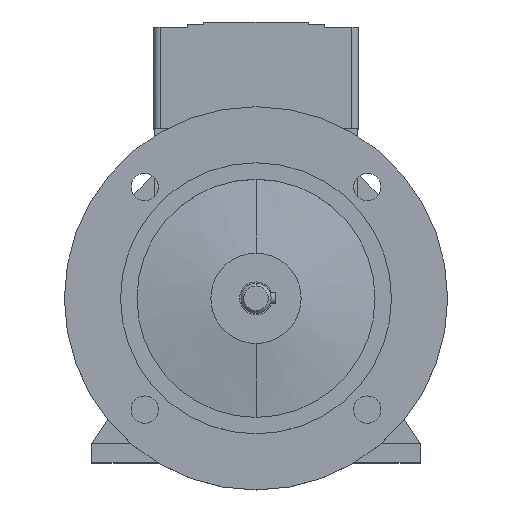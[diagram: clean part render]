
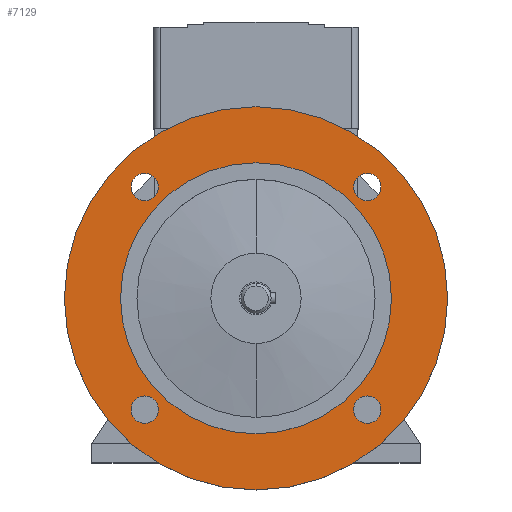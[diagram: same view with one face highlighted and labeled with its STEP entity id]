
A CAD part, top view. The second image highlights one B-rep face of the part: STEP entity #7129.
In plain terms, the highlighted planar face has unit normal (0, 0, 1).
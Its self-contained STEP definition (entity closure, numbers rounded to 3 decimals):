
#1663=CARTESIAN_POINT('',(-40.659,40.659,29.));
#1664=DIRECTION('',(0.,0.,-1.));
#1665=DIRECTION('',(-1.,0.,0.));
#1666=AXIS2_PLACEMENT_3D('',#1663,#1664,#1665);
#1668=CARTESIAN_POINT('',(-40.659,40.659,29.));
#1669=DIRECTION('',(0.,0.,-1.));
#1670=DIRECTION('',(1.,0.,0.));
#1671=AXIS2_PLACEMENT_3D('',#1668,#1669,#1670);
#1673=CARTESIAN_POINT('',(-40.659,-40.659,29.));
#1674=DIRECTION('',(0.,0.,-1.));
#1675=DIRECTION('',(-1.,0.,0.));
#1676=AXIS2_PLACEMENT_3D('',#1673,#1674,#1675);
#1678=CARTESIAN_POINT('',(-40.659,-40.659,29.));
#1679=DIRECTION('',(0.,0.,-1.));
#1680=DIRECTION('',(1.,0.,0.));
#1681=AXIS2_PLACEMENT_3D('',#1678,#1679,#1680);
#1683=CARTESIAN_POINT('',(40.659,-40.659,29.));
#1684=DIRECTION('',(0.,0.,-1.));
#1685=DIRECTION('',(-1.,0.,0.));
#1686=AXIS2_PLACEMENT_3D('',#1683,#1684,#1685);
#1688=CARTESIAN_POINT('',(40.659,-40.659,29.));
#1689=DIRECTION('',(0.,0.,-1.));
#1690=DIRECTION('',(1.,0.,0.));
#1691=AXIS2_PLACEMENT_3D('',#1688,#1689,#1690);
#1693=CARTESIAN_POINT('',(0.,0.,29.));
#1694=DIRECTION('',(0.,0.,1.));
#1695=DIRECTION('',(0.,1.,0.));
#1696=AXIS2_PLACEMENT_3D('',#1693,#1694,#1695);
#1698=CARTESIAN_POINT('',(0.,0.,29.));
#1699=DIRECTION('',(0.,0.,-1.));
#1700=DIRECTION('',(0.,1.,0.));
#1701=AXIS2_PLACEMENT_3D('',#1698,#1699,#1700);
#1703=CARTESIAN_POINT('',(40.659,40.659,29.));
#1704=DIRECTION('',(0.,0.,-1.));
#1705=DIRECTION('',(-1.,0.,0.));
#1706=AXIS2_PLACEMENT_3D('',#1703,#1704,#1705);
#1708=CARTESIAN_POINT('',(40.659,40.659,29.));
#1709=DIRECTION('',(0.,0.,-1.));
#1710=DIRECTION('',(1.,0.,0.));
#1711=AXIS2_PLACEMENT_3D('',#1708,#1709,#1710);
#1713=CARTESIAN_POINT('',(0.,0.,29.));
#1714=DIRECTION('',(0.,0.,-1.));
#1715=DIRECTION('',(-1.,0.,0.));
#1716=AXIS2_PLACEMENT_3D('',#1713,#1714,#1715);
#1718=CARTESIAN_POINT('',(0.,0.,29.));
#1719=DIRECTION('',(0.,0.,-1.));
#1720=DIRECTION('',(1.,0.,0.));
#1721=AXIS2_PLACEMENT_3D('',#1718,#1719,#1720);
#3715=CARTESIAN_POINT('',(0.,70.,29.));
#3717=VERTEX_POINT('',#3715);
#3719=CARTESIAN_POINT('',(0.,-70.,29.));
#3721=VERTEX_POINT('',#3719);
#3726=CARTESIAN_POINT('',(35.659,40.659,29.));
#3727=CARTESIAN_POINT('',(45.659,40.659,29.));
#3728=VERTEX_POINT('',#3726);
#3729=VERTEX_POINT('',#3727);
#3734=CARTESIAN_POINT('',(35.659,-40.659,29.));
#3735=CARTESIAN_POINT('',(45.659,-40.659,29.));
#3736=VERTEX_POINT('',#3734);
#3737=VERTEX_POINT('',#3735);
#3742=CARTESIAN_POINT('',(-45.659,-40.659,29.));
#3743=CARTESIAN_POINT('',(-35.659,-40.659,29.));
#3744=VERTEX_POINT('',#3742);
#3745=VERTEX_POINT('',#3743);
#3750=CARTESIAN_POINT('',(-45.659,40.659,29.));
#3751=CARTESIAN_POINT('',(-35.659,40.659,29.));
#3752=VERTEX_POINT('',#3750);
#3753=VERTEX_POINT('',#3751);
#3762=CARTESIAN_POINT('',(-49.5,0.,29.));
#3763=CARTESIAN_POINT('',(49.5,0.,29.));
#3764=VERTEX_POINT('',#3762);
#3765=VERTEX_POINT('',#3763);
#7090=CARTESIAN_POINT('',(0.,0.,29.));
#7091=DIRECTION('',(0.,0.,-1.));
#7092=DIRECTION('',(0.,-1.,0.));
#7093=AXIS2_PLACEMENT_3D('',#7090,#7091,#7092);
#7094=PLANE('',#7093);
#7096=ORIENTED_EDGE('',*,*,#7095,.F.);
#7098=ORIENTED_EDGE('',*,*,#7097,.T.);
#7099=EDGE_LOOP('',(#7096,#7098));
#7100=FACE_OUTER_BOUND('',#7099,.F.);
#7101=ORIENTED_EDGE('',*,*,#7080,.F.);
#7103=ORIENTED_EDGE('',*,*,#7102,.F.);
#7104=EDGE_LOOP('',(#7101,#7103));
#7105=FACE_BOUND('',#7104,.F.);
#7107=ORIENTED_EDGE('',*,*,#7106,.F.);
#7109=ORIENTED_EDGE('',*,*,#7108,.F.);
#7110=EDGE_LOOP('',(#7107,#7109));
#7111=FACE_BOUND('',#7110,.F.);
#7113=ORIENTED_EDGE('',*,*,#7112,.F.);
#7115=ORIENTED_EDGE('',*,*,#7114,.F.);
#7116=EDGE_LOOP('',(#7113,#7115));
#7117=FACE_BOUND('',#7116,.F.);
#7119=ORIENTED_EDGE('',*,*,#7118,.F.);
#7121=ORIENTED_EDGE('',*,*,#7120,.F.);
#7122=EDGE_LOOP('',(#7119,#7121));
#7123=FACE_BOUND('',#7122,.F.);
#7125=ORIENTED_EDGE('',*,*,#7124,.F.);
#7126=ORIENTED_EDGE('',*,*,#5421,.F.);
#7127=EDGE_LOOP('',(#7125,#7126));
#7128=FACE_BOUND('',#7127,.F.);
#7129=ADVANCED_FACE('',(#7100,#7105,#7111,#7117,#7123,#7128),#7094,.F.);
#1667=CIRCLE('',#1666,5.);
#1672=CIRCLE('',#1671,5.);
#1677=CIRCLE('',#1676,5.);
#1682=CIRCLE('',#1681,5.);
#1687=CIRCLE('',#1686,5.);
#1692=CIRCLE('',#1691,5.);
#1697=CIRCLE('',#1696,70.);
#1702=CIRCLE('',#1701,70.);
#1707=CIRCLE('',#1706,5.);
#1712=CIRCLE('',#1711,5.);
#1717=CIRCLE('',#1716,49.5);
#1722=CIRCLE('',#1721,49.5);
#5421=EDGE_CURVE('',#3765,#3764,#1722,.T.);
#7080=EDGE_CURVE('',#3752,#3753,#1667,.T.);
#7095=EDGE_CURVE('',#3717,#3721,#1697,.T.);
#7097=EDGE_CURVE('',#3717,#3721,#1702,.T.);
#7102=EDGE_CURVE('',#3753,#3752,#1672,.T.);
#7106=EDGE_CURVE('',#3744,#3745,#1677,.T.);
#7108=EDGE_CURVE('',#3745,#3744,#1682,.T.);
#7112=EDGE_CURVE('',#3736,#3737,#1687,.T.);
#7114=EDGE_CURVE('',#3737,#3736,#1692,.T.);
#7118=EDGE_CURVE('',#3728,#3729,#1707,.T.);
#7120=EDGE_CURVE('',#3729,#3728,#1712,.T.);
#7124=EDGE_CURVE('',#3764,#3765,#1717,.T.);
